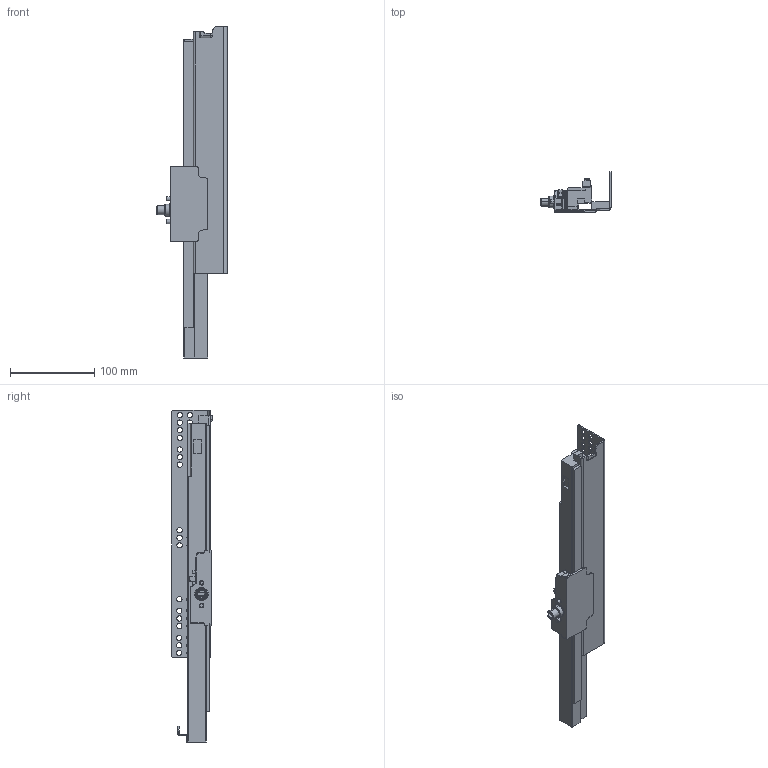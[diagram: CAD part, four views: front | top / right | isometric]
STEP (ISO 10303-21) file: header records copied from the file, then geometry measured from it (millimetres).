
FILE_DESCRIPTION (( 'STEP AP203' ), '1' );
FILE_NAME ('TF10400H-R-DTC3D-close.STEP', '2021-06-03T01:10:28', ( 'df' ), ( 'Microsoft' ), 'SwSTEP 2.0', 'SolidWorks 2018', '' );
FILE_SCHEMA (( 'CONFIG_CONTROL_DESIGN' ));
Length unit declared in the file: millimetre
Products named in the file (1): TF10400H-R-DTC3D-close
Bounding box: 83.3 x 48 x 395 mm (x, y, z)
Volume: 336559.6 mm3; surface area: 102772.1 mm2
Topology: 1 solids, 4 shells, 523 faces, 1354 edges, 835 vertices
Faces by surface type: cylinder 251, plane 164, bspline 102, sphere 4, torus 2
Entity records: 18192 total; most frequent: CARTESIAN_POINT 5567, ORIENTED_EDGE 2686, DIRECTION 2595, EDGE_CURVE 1343, AXIS2_PLACEMENT_3D 965, VERTEX_POINT 835, VECTOR 665, LINE 665
